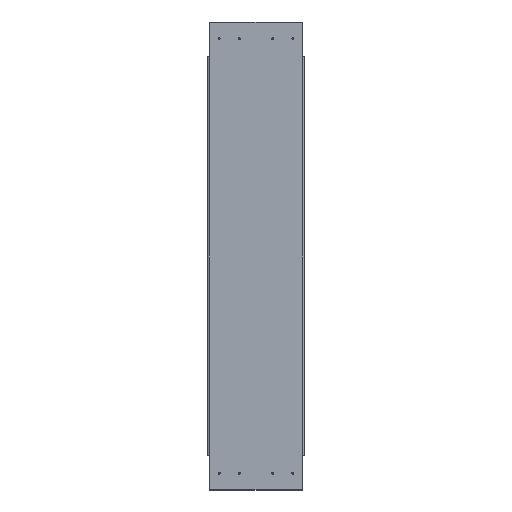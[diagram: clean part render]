
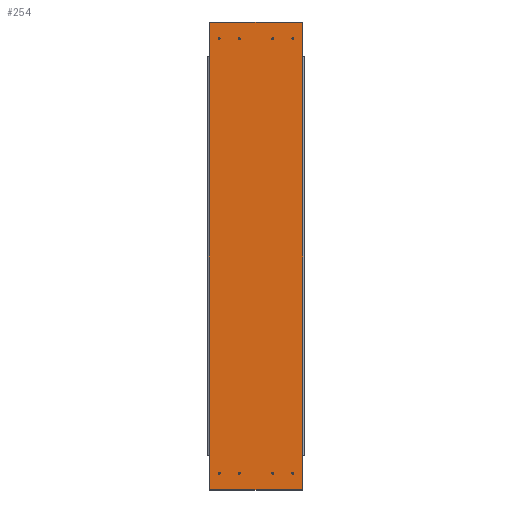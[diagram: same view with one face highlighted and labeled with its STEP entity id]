
A CAD part, top view. The second image highlights one B-rep face of the part: STEP entity #254.
In plain terms, the highlighted planar face has unit normal (0, 0, 1).
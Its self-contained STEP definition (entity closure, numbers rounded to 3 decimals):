
#59=CARTESIAN_POINT('',(1580.,2093.5,287.5));
#60=DIRECTION('',(-0.,-0.,1.));
#61=DIRECTION('',(0.,1.,0.));
#62=AXIS2_PLACEMENT_3D('',#59,#60,#61);
#63=PLANE('',#62);
#64=CARTESIAN_POINT('',(1590.,2130.9,287.5));
#65=VERTEX_POINT('',#64);
#66=CARTESIAN_POINT('',(1590.,2133.5,287.5));
#67=DIRECTION('',(-0.,-0.,1.));
#68=DIRECTION('',(0.,-1.,-0.));
#69=AXIS2_PLACEMENT_3D('',#66,#67,#68);
#70=CIRCLE('',#69,2.6);
#71=EDGE_CURVE('',#65,#65,#70,.T.);
#72=ORIENTED_EDGE('',*,*,#71,.F.);
#73=EDGE_LOOP('',(#72));
#74=FACE_BOUND('',#73,.T.);
#75=CARTESIAN_POINT('',(1530.,2130.9,287.5));
#76=VERTEX_POINT('',#75);
#77=CARTESIAN_POINT('',(1530.,2133.5,287.5));
#78=DIRECTION('',(-0.,-0.,1.));
#79=DIRECTION('',(0.,-1.,-0.));
#80=AXIS2_PLACEMENT_3D('',#77,#78,#79);
#81=CIRCLE('',#80,2.6);
#82=EDGE_CURVE('',#76,#76,#81,.T.);
#83=ORIENTED_EDGE('',*,*,#82,.F.);
#84=EDGE_LOOP('',(#83));
#85=FACE_BOUND('',#84,.T.);
#86=CARTESIAN_POINT('',(1430.,2130.9,287.5));
#87=VERTEX_POINT('',#86);
#88=CARTESIAN_POINT('',(1430.,2133.5,287.5));
#89=DIRECTION('',(-0.,-0.,1.));
#90=DIRECTION('',(0.,-1.,-0.));
#91=AXIS2_PLACEMENT_3D('',#88,#89,#90);
#92=CIRCLE('',#91,2.6);
#93=EDGE_CURVE('',#87,#87,#92,.T.);
#94=ORIENTED_EDGE('',*,*,#93,.F.);
#95=EDGE_LOOP('',(#94));
#96=FACE_BOUND('',#95,.T.);
#97=CARTESIAN_POINT('',(1370.,2130.9,287.5));
#98=VERTEX_POINT('',#97);
#99=CARTESIAN_POINT('',(1370.,2133.5,287.5));
#100=DIRECTION('',(-0.,-0.,1.));
#101=DIRECTION('',(0.,-1.,-0.));
#102=AXIS2_PLACEMENT_3D('',#99,#100,#101);
#103=CIRCLE('',#102,2.6);
#104=EDGE_CURVE('',#98,#98,#103,.T.);
#105=ORIENTED_EDGE('',*,*,#104,.F.);
#106=EDGE_LOOP('',(#105));
#107=FACE_BOUND('',#106,.T.);
#108=CARTESIAN_POINT('',(1590.,3430.9,287.5));
#109=VERTEX_POINT('',#108);
#110=CARTESIAN_POINT('',(1590.,3433.5,287.5));
#111=DIRECTION('',(-0.,-0.,1.));
#112=DIRECTION('',(0.,-1.,-0.));
#113=AXIS2_PLACEMENT_3D('',#110,#111,#112);
#114=CIRCLE('',#113,2.6);
#115=EDGE_CURVE('',#109,#109,#114,.T.);
#116=ORIENTED_EDGE('',*,*,#115,.F.);
#117=EDGE_LOOP('',(#116));
#118=FACE_BOUND('',#117,.T.);
#119=CARTESIAN_POINT('',(1530.,3430.9,287.5));
#120=VERTEX_POINT('',#119);
#121=CARTESIAN_POINT('',(1530.,3433.5,287.5));
#122=DIRECTION('',(-0.,-0.,1.));
#123=DIRECTION('',(0.,-1.,-0.));
#124=AXIS2_PLACEMENT_3D('',#121,#122,#123);
#125=CIRCLE('',#124,2.6);
#126=EDGE_CURVE('',#120,#120,#125,.T.);
#127=ORIENTED_EDGE('',*,*,#126,.F.);
#128=EDGE_LOOP('',(#127));
#129=FACE_BOUND('',#128,.T.);
#130=CARTESIAN_POINT('',(1370.,3430.9,287.5));
#131=VERTEX_POINT('',#130);
#132=CARTESIAN_POINT('',(1370.,3433.5,287.5));
#133=DIRECTION('',(-0.,-0.,1.));
#134=DIRECTION('',(0.,-1.,-0.));
#135=AXIS2_PLACEMENT_3D('',#132,#133,#134);
#136=CIRCLE('',#135,2.6);
#137=EDGE_CURVE('',#131,#131,#136,.T.);
#138=ORIENTED_EDGE('',*,*,#137,.F.);
#139=EDGE_LOOP('',(#138));
#140=FACE_BOUND('',#139,.T.);
#141=CARTESIAN_POINT('',(1430.,3430.9,287.5));
#142=VERTEX_POINT('',#141);
#143=CARTESIAN_POINT('',(1430.,3433.5,287.5));
#144=DIRECTION('',(-0.,-0.,1.));
#145=DIRECTION('',(0.,-1.,-0.));
#146=AXIS2_PLACEMENT_3D('',#143,#144,#145);
#147=CIRCLE('',#146,2.6);
#148=EDGE_CURVE('',#142,#142,#147,.T.);
#149=ORIENTED_EDGE('',*,*,#148,.F.);
#150=EDGE_LOOP('',(#149));
#151=FACE_BOUND('',#150,.T.);
#152=CARTESIAN_POINT('',(1620.,2187.5,287.5));
#153=VERTEX_POINT('',#152);
#154=CARTESIAN_POINT('',(1620.,2084.5,287.5));
#155=VERTEX_POINT('',#154);
#156=CARTESIAN_POINT('',(1620.,2187.5,287.5));
#157=DIRECTION('',(0.,-1.,-0.));
#158=VECTOR('',#157,103.);
#159=LINE('',#156,#158);
#160=EDGE_CURVE('',#153,#155,#159,.T.);
#161=ORIENTED_EDGE('',*,*,#160,.F.);
#162=CARTESIAN_POINT('',(1620.,3379.5,287.5));
#163=VERTEX_POINT('',#162);
#164=CARTESIAN_POINT('',(1620.,2187.5,287.5));
#165=DIRECTION('',(0.,1.,0.));
#166=VECTOR('',#165,1192.);
#167=LINE('',#164,#166);
#168=EDGE_CURVE('',#153,#163,#167,.T.);
#169=ORIENTED_EDGE('',*,*,#168,.T.);
#170=CARTESIAN_POINT('',(1620.,3482.5,287.5));
#171=VERTEX_POINT('',#170);
#172=CARTESIAN_POINT('',(1620.,3379.5,287.5));
#173=DIRECTION('',(0.,1.,0.));
#174=VECTOR('',#173,103.);
#175=LINE('',#172,#174);
#176=EDGE_CURVE('',#163,#171,#175,.T.);
#177=ORIENTED_EDGE('',*,*,#176,.T.);
#178=CARTESIAN_POINT('',(1619.,3483.5,287.5));
#179=VERTEX_POINT('',#178);
#180=CARTESIAN_POINT('',(1619.,3482.5,287.5));
#181=DIRECTION('',(-0.,-0.,1.));
#182=DIRECTION('',(0.,-1.,-0.));
#183=AXIS2_PLACEMENT_3D('',#180,#181,#182);
#184=CIRCLE('',#183,1.);
#185=EDGE_CURVE('',#171,#179,#184,.T.);
#186=ORIENTED_EDGE('',*,*,#185,.T.);
#187=CARTESIAN_POINT('',(1341.,3483.5,287.5));
#188=VERTEX_POINT('',#187);
#189=CARTESIAN_POINT('',(1619.,3483.5,287.5));
#190=DIRECTION('',(-1.,0.,0.));
#191=VECTOR('',#190,278.);
#192=LINE('',#189,#191);
#193=EDGE_CURVE('',#179,#188,#192,.T.);
#194=ORIENTED_EDGE('',*,*,#193,.T.);
#195=CARTESIAN_POINT('',(1340.,3482.5,287.5));
#196=VERTEX_POINT('',#195);
#197=CARTESIAN_POINT('',(1341.,3482.5,287.5));
#198=DIRECTION('',(-0.,-0.,1.));
#199=DIRECTION('',(0.,-1.,-0.));
#200=AXIS2_PLACEMENT_3D('',#197,#198,#199);
#201=CIRCLE('',#200,1.);
#202=EDGE_CURVE('',#188,#196,#201,.T.);
#203=ORIENTED_EDGE('',*,*,#202,.T.);
#204=CARTESIAN_POINT('',(1340.,3379.5,287.5));
#205=VERTEX_POINT('',#204);
#206=CARTESIAN_POINT('',(1340.,3379.5,287.5));
#207=DIRECTION('',(0.,1.,0.));
#208=VECTOR('',#207,103.);
#209=LINE('',#206,#208);
#210=EDGE_CURVE('',#205,#196,#209,.T.);
#211=ORIENTED_EDGE('',*,*,#210,.F.);
#212=CARTESIAN_POINT('',(1340.,2187.5,287.5));
#213=VERTEX_POINT('',#212);
#214=CARTESIAN_POINT('',(1340.,3379.5,287.5));
#215=DIRECTION('',(-0.,-1.,-0.));
#216=VECTOR('',#215,1192.);
#217=LINE('',#214,#216);
#218=EDGE_CURVE('',#205,#213,#217,.T.);
#219=ORIENTED_EDGE('',*,*,#218,.T.);
#220=CARTESIAN_POINT('',(1340.,2084.5,287.5));
#221=VERTEX_POINT('',#220);
#222=CARTESIAN_POINT('',(1340.,2187.5,287.5));
#223=DIRECTION('',(0.,-1.,-0.));
#224=VECTOR('',#223,103.);
#225=LINE('',#222,#224);
#226=EDGE_CURVE('',#213,#221,#225,.T.);
#227=ORIENTED_EDGE('',*,*,#226,.T.);
#228=CARTESIAN_POINT('',(1341.,2083.5,287.5));
#229=VERTEX_POINT('',#228);
#230=CARTESIAN_POINT('',(1341.,2084.5,287.5));
#231=DIRECTION('',(-0.,-0.,1.));
#232=DIRECTION('',(0.,-1.,-0.));
#233=AXIS2_PLACEMENT_3D('',#230,#231,#232);
#234=CIRCLE('',#233,1.);
#235=EDGE_CURVE('',#221,#229,#234,.T.);
#236=ORIENTED_EDGE('',*,*,#235,.T.);
#237=CARTESIAN_POINT('',(1619.,2083.5,287.5));
#238=VERTEX_POINT('',#237);
#239=CARTESIAN_POINT('',(1619.,2083.5,287.5));
#240=DIRECTION('',(-1.,0.,0.));
#241=VECTOR('',#240,278.);
#242=LINE('',#239,#241);
#243=EDGE_CURVE('',#238,#229,#242,.T.);
#244=ORIENTED_EDGE('',*,*,#243,.F.);
#245=CARTESIAN_POINT('',(1619.,2084.5,287.5));
#246=DIRECTION('',(-0.,-0.,1.));
#247=DIRECTION('',(0.,-1.,-0.));
#248=AXIS2_PLACEMENT_3D('',#245,#246,#247);
#249=CIRCLE('',#248,1.);
#250=EDGE_CURVE('',#238,#155,#249,.T.);
#251=ORIENTED_EDGE('',*,*,#250,.T.);
#252=EDGE_LOOP('',(#161,#169,#177,#186,#194,#203,#211,#219,#227,#236,#244,#251));
#253=FACE_BOUND('',#252,.T.);
#254=ADVANCED_FACE('',(#74,#85,#96,#107,#118,#129,#140,#151,#253),#63,.T.);
